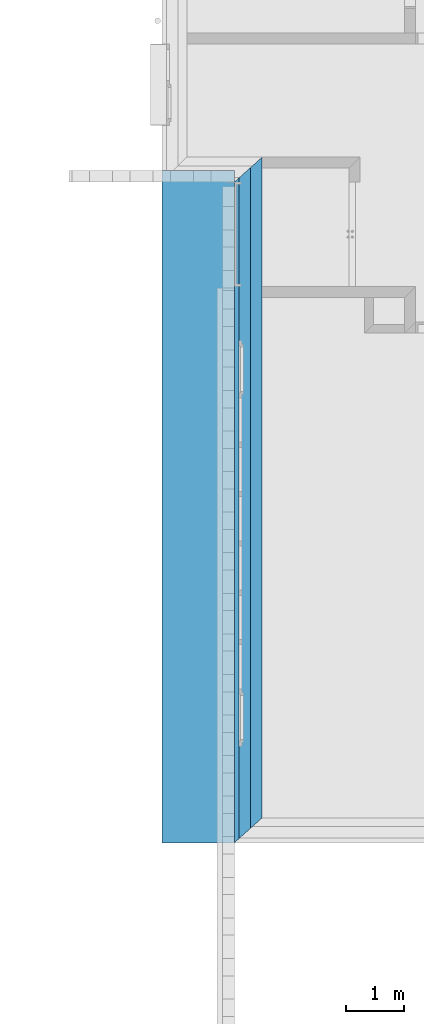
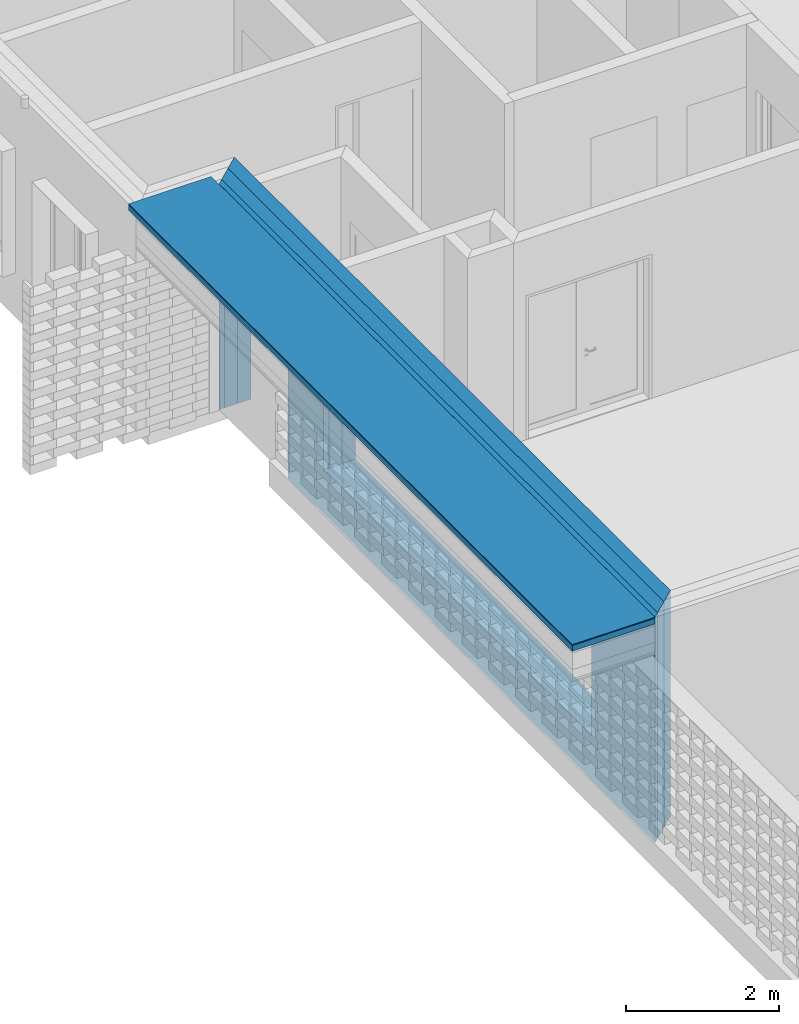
# One storey, part 12 of 62: 5 building element parts, 2 openings, 2 elements without a shape of their own.
"""IFC2X3 building model written with IfcOpenShell, lengths in millimetres."""

from ifc_helpers import new_model, entity, si_unit, converted_unit, derived_unit, money_unit, direction, frame, origin_with_axes, origin_2d_with_axis, place, context, subcontext, project, spatial, polyline, rectangle, outline, extrude, material, type_object, element, aggregate, save


model = new_model("IFC2X3")

# Units and contexts
model_context = context("Model", 3, precision=0.01, world=origin_with_axes(), true_north=direction((0.0, 1.0)))
body_context = subcontext(model_context, "Body", "Model", "MODEL_VIEW")
ifc_project = project(units=[si_unit("LENGTHUNIT", "METRE", prefix="MILLI"), si_unit("AREAUNIT", "SQUARE_METRE"), si_unit("VOLUMEUNIT", "CUBIC_METRE"), converted_unit("PLANEANGLEUNIT", "DEGREE", entity("IfcPlaneAngleMeasure", 0.0174532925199), si_unit("PLANEANGLEUNIT", "RADIAN"), dimensions=[0, 0, 0, 0, 0, 0, 0]), si_unit("SOLIDANGLEUNIT", "STERADIAN"), money_unit("EUR"), converted_unit("TIMEUNIT", "Year", entity("IfcTimeMeasure", 31556926.0), si_unit("TIMEUNIT", "SECOND"), dimensions=[0, 0, 1, 0, 0, 0, 0]), si_unit("MASSUNIT", "GRAM", prefix="KILO"), si_unit("THERMODYNAMICTEMPERATUREUNIT", "DEGREE_CELSIUS"), si_unit("LUMINOUSINTENSITYUNIT", "LUMEN"), si_unit("ENERGYUNIT", "JOULE", prefix="MEGA"), derived_unit("THERMALCONDUCTANCEUNIT", [(si_unit("POWERUNIT", "WATT"), 1), (si_unit("LENGTHUNIT", "METRE"), -1), (si_unit("THERMODYNAMICTEMPERATUREUNIT", "KELVIN"), -1)]), derived_unit("SPECIFICHEATCAPACITYUNIT", [(si_unit("ENERGYUNIT", "JOULE"), 1), (si_unit("MASSUNIT", "GRAM", prefix="KILO"), -1), (si_unit("THERMODYNAMICTEMPERATUREUNIT", "KELVIN"), -1)]), derived_unit("MASSDENSITYUNIT", [(si_unit("MASSUNIT", "GRAM", prefix="KILO"), 1), (si_unit("VOLUMEUNIT", "CUBIC_METRE"), -1)])], contexts=[model_context])

# Site, building, storey
site_placement = place(None, origin_with_axes())
site = spatial("IfcSite", under=ifc_project, at=site_placement, Name="KIRDE 14, ELVA", CompositionType="ELEMENT")
building_placement = place(site_placement, origin_with_axes())
building = spatial("IfcBuilding", under=site, at=building_placement, Name="PPA ja Päästeameti ühishoone", CompositionType="ELEMENT")
storey_placement = place(building_placement, origin_with_axes())
storey = spatial("IfcBuildingStorey", under=building, at=storey_placement, Name="Esimene korrus", CompositionType="ELEMENT", Elevation=0.0)

# Wall, openings, building element parts
wall_type = type_object("IfcWallType", Name="VS-02 480", PredefinedType="NOTDEFINED")
wall_placement = place(storey_placement, frame((1300.00014324, -2.18278728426e-08, 0.0), z_axis=(0.0, 0.0, 1.0), x_axis=(0.0, 1.0, 0.0)))
wall = element("IfcWall", 1, at=wall_placement, inside=storey, type_object=wall_type, Name="VS-02")
opening_1_placement = place(wall_placement, frame((4735.60799175, 0.0, 700.0), z_axis=(0.0, 0.0, 1.0), x_axis=(1.0, 0.0, 0.0)))
element("IfcOpeningElement", 2, at=opening_1_placement, cuts=wall, Name="A-11", context=body_context, shape_type="SweptSolid", body=[
    extrude(rectangle(XDim=7000.0, YDim=1600.0, at=origin_2d_with_axis()), frame((0.0, 400.0, 800.0), z_axis=(0.0, -1.0, 0.0), x_axis=(1.0, 0.0, 0.0)), (0.0, 0.0, 1.0), 880.0),
    extrude(rectangle(XDim=7000.0, YDim=1600.0, at=origin_2d_with_axis()), frame((0.0, 400.0, 800.0), z_axis=(0.0, 1.0, 0.0), x_axis=(1.0, 0.0, 0.0)), (0.0, 0.0, 1.0), 560.0),
])
opening_2_placement = place(wall_placement, frame((10068.4748518, 0.0, 0.0), z_axis=(0.0, 0.0, 1.0), x_axis=(1.0, 0.0, 0.0)))
element("IfcOpeningElement", 3, at=opening_2_placement, cuts=wall, Name="VU-01", context=body_context, shape_type="SweptSolid", body=[
    extrude(rectangle(XDim=1800.0, YDim=2800.0, at=origin_2d_with_axis()), frame((0.0, -480.0, 1400.0), z_axis=(0.0, -1.0, 0.0), x_axis=(-1.0, 0.0, 0.0)), (0.0, 0.0, -1.0), 1440.0),
    extrude(rectangle(XDim=1824.0, YDim=2812.0, at=origin_2d_with_axis()), frame((0.0, 480.0, 1406.0), z_axis=(0.0, 1.0, 0.0), x_axis=(-1.0, 0.0, 0.0)), (0.0, 0.0, 1.0), 480.0),
])
ifc_material_1 = material(Name="Raudbetoon Paneelid (2)")
building_element_part_1_placement = place(wall_placement, origin_with_axes())
building_element_part_1 = element("IfcBuildingElementPart", 4, at=building_element_part_1_placement, material=ifc_material_1, Name="Raudbetoon Paneelid (2)", context=body_context, shape_type="SweptSolid", body=[
    extrude(outline(polyline([(0.0, 0.0), (11400.396614, 0.0), (11221.2300073, 200.0), (-179.166666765, 200.0), (0.0, 0.0)])), origin_with_axes(), (0.0, 0.0, 1.0), 3600.0),
])
ifc_material_2 = material(Name="Vahtpolüstüreen (4)")
building_element_part_2_placement = place(wall_placement, origin_with_axes())
building_element_part_2 = element("IfcBuildingElementPart", 5, at=building_element_part_2_placement, material=ifc_material_2, Name="Vahtpolüstüreen (4)", context=body_context, shape_type="SweptSolid", body=[
    extrude(outline(polyline([(-179.166666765, 200.0), (11221.2300073, 200.0), (11042.0634005, 400.0), (-358.333333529, 400.0), (-179.166666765, 200.0)])), origin_with_axes(), (0.0, 0.0, 1.0), 3600.0),
])
building_element_part_3_placement = place(wall_placement, origin_with_axes())
building_element_part_3 = element("IfcBuildingElementPart", 6, at=building_element_part_3_placement, material=ifc_material_1, Name="Raudbetoon Paneelid (2)", context=body_context, shape_type="SweptSolid", body=[
    extrude(outline(polyline([(-358.333333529, 400.0), (11042.0634005, 400.0), (10970.3967578, 480.0), (-430.000000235, 480.0), (-358.333333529, 400.0)])), origin_with_axes(), (0.0, 0.0, 1.0), 3600.0),
])
aggregate(wall, [building_element_part_1, building_element_part_2, building_element_part_3])

# Slab, building element parts
slab_type = type_object("IfcSlabType", Name="VL-01 RB/OONESPANEEL 265 soojustusega 601", PredefinedType="NOTDEFINED")
slab_placement = place(storey_placement, frame((-429.999983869, -429.99999872, 3600.0), z_axis=(0.0, 0.0, 1.0), x_axis=(1.0, 0.0, 0.0)))
slab = element("IfcSlab", 7, at=slab_placement, inside=storey, type_object=slab_type, Name="VL-02", PredefinedType="NOTDEFINED")
ifc_material_3 = material(Name="Concrete, Cast In Situ")
building_element_part_4_placement = place(slab_placement, origin_with_axes())
building_element_part_4 = element("IfcBuildingElementPart", 8, at=building_element_part_4_placement, material=ifc_material_3, Name="Concrete, Cast In Situ", context=body_context, shape_type="SweptSolid", body=[
    extrude(outline(polyline([(0.0, 0.0), (1250.00020163, 0.0), (1250.00020163, 11603.3966719), (0.0, 11603.3966719), (0.0, 0.0)])), frame((0.0, 0.0, -105.0), z_axis=(0.0, 0.0, 1.0), x_axis=(1.0, 0.0, 0.0)), (0.0, 0.0, 1.0), 90.0),
])
ifc_material_4 = material(Name="Timber - Floor")
building_element_part_5_placement = place(slab_placement, origin_with_axes())
building_element_part_5 = element("IfcBuildingElementPart", 9, at=building_element_part_5_placement, material=ifc_material_4, Name="Timber - Floor", context=body_context, shape_type="SweptSolid", body=[
    extrude(outline(polyline([(0.0, 0.0), (1250.00020163, 0.0), (1250.00020163, 11603.3966719), (0.0, 11603.3966719), (0.0, 0.0)])), frame((0.0, 0.0, -15.0), z_axis=(0.0, 0.0, 1.0), x_axis=(1.0, 0.0, 0.0)), (0.0, 0.0, 1.0), 15.0),
])
aggregate(slab, [building_element_part_4, building_element_part_5])

save(model, "model.ifc")
